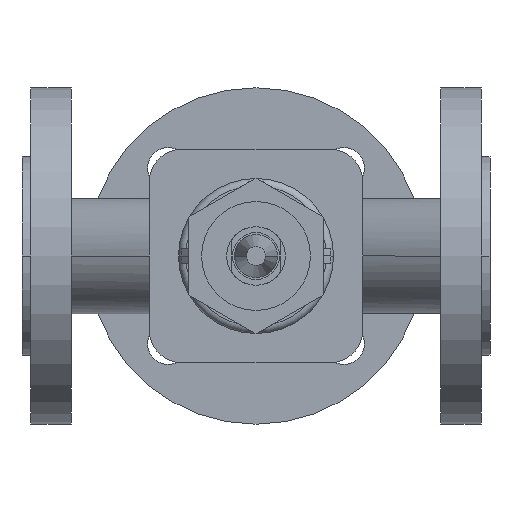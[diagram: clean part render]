
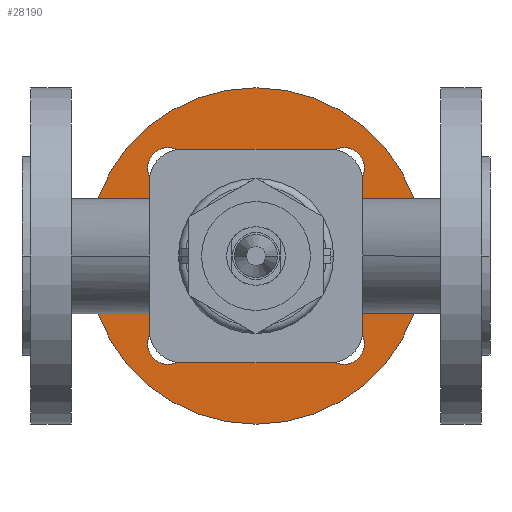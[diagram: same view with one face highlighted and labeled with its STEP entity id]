
A CAD part, front view. The second image highlights one B-rep face of the part: STEP entity #28190.
In plain terms, the highlighted planar face has unit normal (0, -1, 0).
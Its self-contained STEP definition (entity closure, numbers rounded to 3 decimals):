
#690=CARTESIAN_POINT('',(53.5,58.14,0.));
#700=VERTEX_POINT('',#690);
#730=CARTESIAN_POINT('',(80.,58.14,0.));
#740=DIRECTION('',(0.,-1.,0.));
#750=DIRECTION('',(-1.,0.,0.));
#760=AXIS2_PLACEMENT_3D('',#730,#740,#750);
#770=CIRCLE('',#760,26.5);
#780=CARTESIAN_POINT('',(106.5,58.14,0.));
#790=VERTEX_POINT('',#780);
#800=EDGE_CURVE('',#790,#700,#770,.T.);
#1610=CARTESIAN_POINT('',(22.5,58.14,0.));
#1620=VERTEX_POINT('',#1610);
#1670=CARTESIAN_POINT('',(80.,58.14,0.));
#1680=DIRECTION('',(0.,1.,0.));
#1690=DIRECTION('',(1.,0.,0.));
#1700=AXIS2_PLACEMENT_3D('',#1670,#1680,#1690);
#1710=CIRCLE('',#1700,57.5);
#1720=CARTESIAN_POINT('',(137.5,58.14,0.));
#1730=VERTEX_POINT('',#1720);
#1740=EDGE_CURVE('',#1730,#1620,#1710,.T.);
#2100=CARTESIAN_POINT('',(103.052,58.14,-30.052));
#2110=VERTEX_POINT('',#2100);
#2290=CARTESIAN_POINT('',(117.052,58.14,-30.052));
#2300=VERTEX_POINT('',#2290);
#2330=CARTESIAN_POINT('',(110.052,58.14,-30.052));
#2340=DIRECTION('',(0.,-1.,0.));
#2350=DIRECTION('',(1.,0.,0.));
#2360=AXIS2_PLACEMENT_3D('',#2330,#2340,#2350);
#2370=CIRCLE('',#2360,7.);
#2380=EDGE_CURVE('',#2110,#2300,#2370,.T.);
#2590=CARTESIAN_POINT('',(103.052,58.14,30.052));
#2600=VERTEX_POINT('',#2590);
#2650=CARTESIAN_POINT('',(110.052,58.14,30.052));
#2660=DIRECTION('',(0.,-1.,0.));
#2670=DIRECTION('',(1.,0.,0.));
#2680=AXIS2_PLACEMENT_3D('',#2650,#2660,#2670);
#2690=CIRCLE('',#2680,7.);
#2700=CARTESIAN_POINT('',(117.052,58.14,30.052));
#2710=VERTEX_POINT('',#2700);
#2720=EDGE_CURVE('',#2710,#2600,#2690,.T.);
#3080=CARTESIAN_POINT('',(56.948,58.14,-30.052));
#3090=VERTEX_POINT('',#3080);
#3270=CARTESIAN_POINT('',(42.948,58.14,-30.052));
#3280=VERTEX_POINT('',#3270);
#3310=CARTESIAN_POINT('',(49.948,58.14,-30.052));
#3320=DIRECTION('',(0.,-1.,0.));
#3330=DIRECTION('',(1.,0.,0.));
#3340=AXIS2_PLACEMENT_3D('',#3310,#3320,#3330);
#3350=CIRCLE('',#3340,7.);
#3360=EDGE_CURVE('',#3090,#3280,#3350,.T.);
#3570=CARTESIAN_POINT('',(42.948,58.14,30.052));
#3580=VERTEX_POINT('',#3570);
#3760=CARTESIAN_POINT('',(56.948,58.14,30.052));
#3770=VERTEX_POINT('',#3760);
#3800=CARTESIAN_POINT('',(49.948,58.14,30.052));
#3810=DIRECTION('',(0.,-1.,0.));
#3820=DIRECTION('',(1.,0.,0.));
#3830=AXIS2_PLACEMENT_3D('',#3800,#3810,#3820);
#3840=CIRCLE('',#3830,7.);
#3850=EDGE_CURVE('',#3580,#3770,#3840,.T.);
#27840=CARTESIAN_POINT('',(49.75,58.14,0.));
#27850=DIRECTION('',(0.,-1.,0.));
#27860=DIRECTION('',(-1.,0.,0.));
#27870=AXIS2_PLACEMENT_3D('',#27840,#27850,#27860);
#27880=PLANE('',#27870);
#27890=ORIENTED_EDGE('',*,*,#1740,.F.);
#27900=EDGE_CURVE('',#1620,#1730,#1710,.T.);
#27910=ORIENTED_EDGE('',*,*,#27900,.F.);
#27920=EDGE_LOOP('',(#27910,#27890));
#27930=FACE_OUTER_BOUND('',#27920,.T.);
#27940=EDGE_CURVE('',#2300,#2110,#2370,.T.);
#27950=ORIENTED_EDGE('',*,*,#27940,.F.);
#27960=ORIENTED_EDGE('',*,*,#2380,.F.);
#27970=EDGE_LOOP('',(#27960,#27950));
#27980=FACE_BOUND('',#27970,.T.);
#27990=EDGE_CURVE('',#2600,#2710,#2690,.T.);
#28000=ORIENTED_EDGE('',*,*,#27990,.F.);
#28010=ORIENTED_EDGE('',*,*,#2720,.F.);
#28020=EDGE_LOOP('',(#28010,#28000));
#28030=FACE_BOUND('',#28020,.T.);
#28040=EDGE_CURVE('',#3280,#3090,#3350,.T.);
#28050=ORIENTED_EDGE('',*,*,#28040,.F.);
#28060=ORIENTED_EDGE('',*,*,#3360,.F.);
#28070=EDGE_LOOP('',(#28060,#28050));
#28080=FACE_BOUND('',#28070,.T.);
#28090=EDGE_CURVE('',#3770,#3580,#3840,.T.);
#28100=ORIENTED_EDGE('',*,*,#28090,.F.);
#28110=ORIENTED_EDGE('',*,*,#3850,.F.);
#28120=EDGE_LOOP('',(#28110,#28100));
#28130=FACE_BOUND('',#28120,.T.);
#28140=ORIENTED_EDGE('',*,*,#800,.F.);
#28150=EDGE_CURVE('',#700,#790,#770,.T.);
#28160=ORIENTED_EDGE('',*,*,#28150,.F.);
#28170=EDGE_LOOP('',(#28160,#28140));
#28180=FACE_BOUND('',#28170,.T.);
#28190=ADVANCED_FACE('',(#27930,#27980,#28030,#28080,#28130,#28180),
#27880,.T.);
